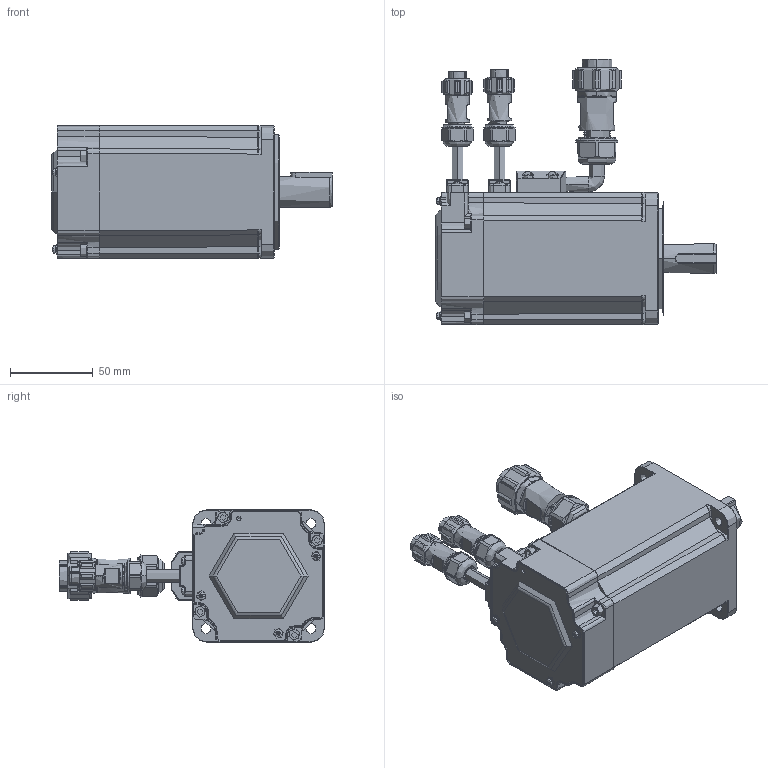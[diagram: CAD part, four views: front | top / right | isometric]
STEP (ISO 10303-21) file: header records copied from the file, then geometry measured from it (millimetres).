
FILE_DESCRIPTION (( 'STEP AP203' ), '1' );
FILE_NAME ('ALM08010H3G3-M17(1000W抱闸）.STEP', '2021-09-28T03:40:53', ( 'Owner' ), ( 'Organization' ), 'SwSTEP 2.0', 'SolidWorks 2018', '' );
FILE_SCHEMA (( 'CONFIG_CONTROL_DESIGN' ));
Products named in the file (1): ALM08010H3G3-M17(1000W抱闸）
Bounding box: 169.9 x 160.7 x 80 mm (x, y, z)
Topology: 74 solids, 77 shells, 4980 faces, 12629 edges, 7841 vertices
Faces by surface type: plane 1775, cylinder 1427, bspline 761, cone 548, torus 353, sphere 116
Full cylindrical faces by diameter (mm): 14.05 x1
Entity records: 214365 total; most frequent: CARTESIAN_POINT 101506, ORIENTED_EDGE 24834, DIRECTION 21418, EDGE_CURVE 12417, AXIS2_PLACEMENT_3D 8147, VERTEX_POINT 7808, EDGE_LOOP 5391, LINE 5124
